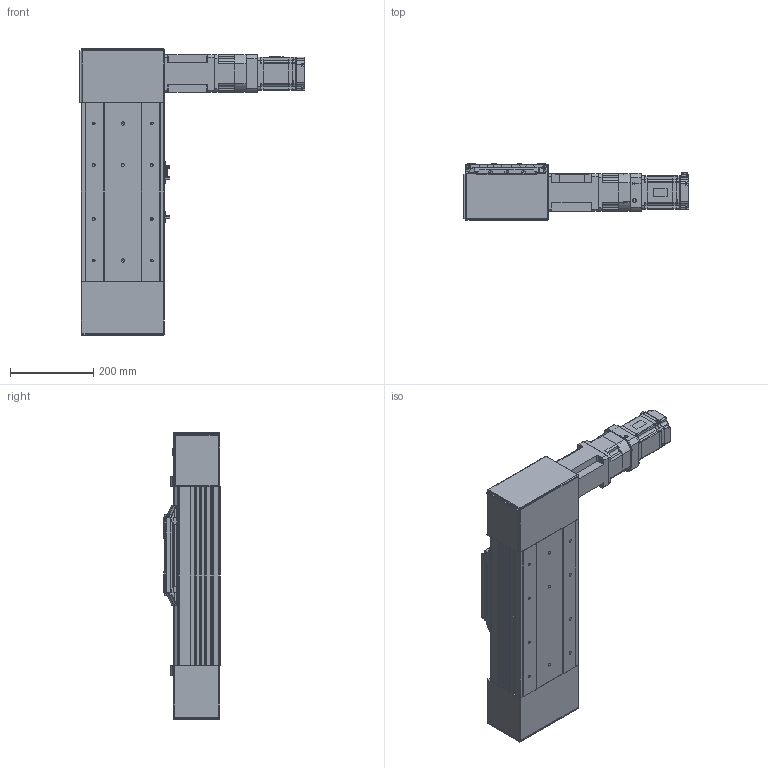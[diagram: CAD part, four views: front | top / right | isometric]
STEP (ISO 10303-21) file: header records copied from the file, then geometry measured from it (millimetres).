
FILE_DESCRIPTION (( 'STEP AP203' ), '1' );
FILE_NAME ('PCB200SRN-0000-ST100-75NR00-N-I3R.step', '2015-09-30T04:07:06', ( '' ), ( '' ), 'SwSTEP 2.0', 'SolidWorks 2012', '' );
FILE_SCHEMA (( 'CONFIG_CONTROL_DESIGN' ));
Products named in the file (14): PCB200SRN-0000-ST100-75NR00-N-I3R; sgmjv_08a_a21; PGX90-H-1_3; EE_SX672; PCB200-Carrier Assy; MOTOR Bracket; PCB200-Sensor Dog; jc48c; PCB200-Carrier; PCB200-Carrier END COVER; PCB200-Carrier UPPER COVER; PCB200-Idler Pulley Block S; PCB200-100ST BASE; PCB200-Drive Pulley Block S
Assembly tree (16 placements, depth 3):
  PCB200SRN-0000-ST100-75NR00-N-I3R
    PCB200-100ST BASE
    PCB200-Drive Pulley Block S
    PCB200-Idler Pulley Block S
    PCB200-Carrier Assy
      PCB200-Carrier
      PCB200-Carrier UPPER COVER
      PCB200-Carrier END COVER  x2
      PCB200-Sensor Dog
    MOTOR Bracket
    jc48c
    PGX90-H-1_3
    sgmjv_08a_a21
    EE_SX672  x3
Bounding box: 543.6 x 136 x 690 mm (x, y, z)
Volume: 18049725.1 mm3; surface area: 1506230.6 mm2
Topology: 37 solids, 37 shells, 3259 faces, 8642 edges, 5492 vertices
Faces by surface type: plane 1889, cylinder 980, cone 221, bspline 157, sphere 8, torus 4
Entity records: 93981 total; most frequent: CARTESIAN_POINT 22925, ORIENTED_EDGE 14696, DIRECTION 14101, EDGE_CURVE 7348, VECTOR 4971, LINE 4971, VERTEX_POINT 4749, AXIS2_PLACEMENT_3D 4565
